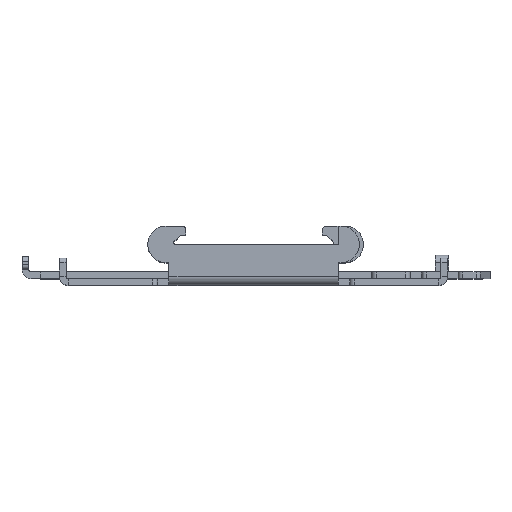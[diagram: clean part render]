
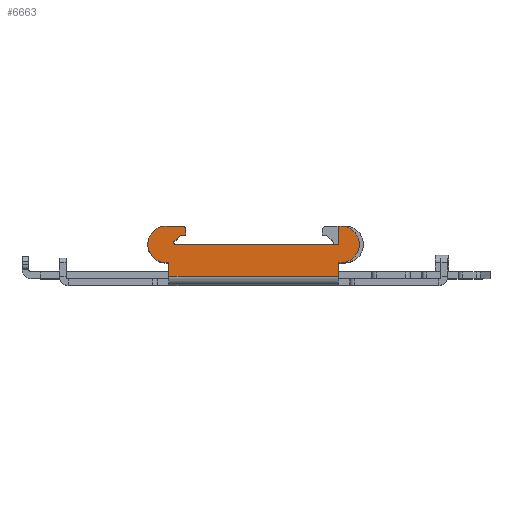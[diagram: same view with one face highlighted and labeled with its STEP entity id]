
A CAD part, top view. The second image highlights one B-rep face of the part: STEP entity #6663.
In plain terms, the highlighted planar face has unit normal (0, 0, 1) as drawn and (0, 0, -1) by its records, which use the part's own axes.
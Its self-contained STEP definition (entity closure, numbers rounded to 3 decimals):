
#49 = CIRCLE ( 'NONE', #8783, 4. ) ;
#116 = EDGE_CURVE ( 'NONE', #12411, #14435, #4830, .T. ) ;
#466 = CIRCLE ( 'NONE', #14184, 4. ) ;
#479 = EDGE_CURVE ( 'NONE', #11978, #7260, #10532, .T. ) ;
#1146 = LINE ( 'NONE', #5907, #9116 ) ;
#1449 = CARTESIAN_POINT ( 'NONE',  ( 19.15, 3.5, -35. ) ) ;
#1526 = DIRECTION ( 'NONE',  ( 1., 0., 0. ) ) ;
#1535 = LINE ( 'NONE', #12456, #12934 ) ;
#1744 = ORIENTED_EDGE ( 'NONE', *, *, #9687, .T. ) ;
#1833 = CARTESIAN_POINT ( 'NONE',  ( 14.85, 10.75, -35. ) ) ;
#1840 = CARTESIAN_POINT ( 'NONE',  ( 14.85, 11.5, -35. ) ) ;
#2130 = CARTESIAN_POINT ( 'NONE',  ( 15.6, 11.5, -35. ) ) ;
#2358 = VECTOR ( 'NONE', #4983, 1000. ) ;
#2373 = VERTEX_POINT ( 'NONE', #3204 ) ;
#2433 = FACE_OUTER_BOUND ( 'NONE', #11854, .T. ) ;
#2580 = DIRECTION ( 'NONE',  ( 0., -1., 0. ) ) ;
#2666 = VERTEX_POINT ( 'NONE', #9034 ) ;
#2669 = ORIENTED_EDGE ( 'NONE', *, *, #7728, .T. ) ;
#2685 = EDGE_CURVE ( 'NONE', #7352, #2666, #466, .T. ) ;
#2701 = CARTESIAN_POINT ( 'NONE',  ( 23.15, 11.5, -35. ) ) ;
#2710 = LINE ( 'NONE', #7490, #4454 ) ;
#2794 = CARTESIAN_POINT ( 'NONE',  ( 15.6, 10.75, -35. ) ) ;
#3045 = ORIENTED_EDGE ( 'NONE', *, *, #3834, .T. ) ;
#3165 = DIRECTION ( 'NONE',  ( 0., 0., -1. ) ) ;
#3204 = CARTESIAN_POINT ( 'NONE',  ( 18.5, 0.5, -35. ) ) ;
#3332 = EDGE_CURVE ( 'NONE', #14435, #11978, #4593, .T. ) ;
#3607 = LINE ( 'NONE', #5794, #4767 ) ;
#3834 = EDGE_CURVE ( 'NONE', #4882, #5629, #11375, .T. ) ;
#4163 = CARTESIAN_POINT ( 'NONE',  ( 15.974, 9.5, -35. ) ) ;
#4218 = ORIENTED_EDGE ( 'NONE', *, *, #13821, .T. ) ;
#4385 = CARTESIAN_POINT ( 'NONE',  ( -18.65, 11.5, -35. ) ) ;
#4454 = VECTOR ( 'NONE', #9896, 1000. ) ;
#4468 = VERTEX_POINT ( 'NONE', #1449 ) ;
#4593 = LINE ( 'NONE', #9363, #14371 ) ;
#4759 = CARTESIAN_POINT ( 'NONE',  ( 18.562, 6.912, -35. ) ) ;
#4767 = VECTOR ( 'NONE', #10564, 1000. ) ;
#4807 = CARTESIAN_POINT ( 'NONE',  ( 18.5, 3.5, -35. ) ) ;
#4830 = LINE ( 'NONE', #4759, #2358 ) ;
#4882 = VERTEX_POINT ( 'NONE', #6942 ) ;
#4983 = DIRECTION ( 'NONE',  ( -0.707, 0.707, 0. ) ) ;
#5071 = CARTESIAN_POINT ( 'NONE',  ( 23.15, 11.5, -35. ) ) ;
#5200 = CARTESIAN_POINT ( 'NONE',  ( 14.85, 9.5, -35. ) ) ;
#5273 = DIRECTION ( 'NONE',  ( 0., -1., 0. ) ) ;
#5287 = CARTESIAN_POINT ( 'NONE',  ( -18.65, 11.5, -35. ) ) ;
#5358 = VERTEX_POINT ( 'NONE', #2130 ) ;
#5366 = DIRECTION ( 'NONE',  ( 0., -1., 0. ) ) ;
#5425 = CARTESIAN_POINT ( 'NONE',  ( -18.5, 11.5, -35. ) ) ;
#5504 = CIRCLE ( 'NONE', #8540, 0.75 ) ;
#5616 = ORIENTED_EDGE ( 'NONE', *, *, #116, .T. ) ;
#5625 = EDGE_CURVE ( 'NONE', #11159, #8534, #8648, .T. ) ;
#5629 = VERTEX_POINT ( 'NONE', #7320 ) ;
#5745 = CARTESIAN_POINT ( 'NONE',  ( 19.15, 11.5, -35. ) ) ;
#5793 = VECTOR ( 'NONE', #6291, 1000. ) ;
#5794 = CARTESIAN_POINT ( 'NONE',  ( 23.15, 0.5, -35. ) ) ;
#5907 = CARTESIAN_POINT ( 'NONE',  ( 23.15, 3.5, -35. ) ) ;
#6161 = DIRECTION ( 'NONE',  ( 0., -1., 0. ) ) ;
#6291 = DIRECTION ( 'NONE',  ( 1., 0., 0. ) ) ;
#6306 = CARTESIAN_POINT ( 'NONE',  ( -19.15, 3.5, -35. ) ) ;
#6663 = ADVANCED_FACE ( 'NONE', ( #2433 ), #7201, .F. ) ;
#6942 = CARTESIAN_POINT ( 'NONE',  ( -18.5, 0.5, -35. ) ) ;
#7014 = VECTOR ( 'NONE', #13949, 1000. ) ;
#7201 = PLANE ( 'NONE',  #12509 ) ;
#7260 = VERTEX_POINT ( 'NONE', #1833 ) ;
#7269 = CARTESIAN_POINT ( 'NONE',  ( 17.25, 7.8, -35. ) ) ;
#7320 = CARTESIAN_POINT ( 'NONE',  ( -18.5, 3.5, -35. ) ) ;
#7352 = VERTEX_POINT ( 'NONE', #6306 ) ;
#7490 = CARTESIAN_POINT ( 'NONE',  ( 23.15, 3.5, -35. ) ) ;
#7539 = VERTEX_POINT ( 'NONE', #5745 ) ;
#7728 = EDGE_CURVE ( 'NONE', #5629, #7352, #1146, .T. ) ;
#7868 = ORIENTED_EDGE ( 'NONE', *, *, #11317, .T. ) ;
#7934 = DIRECTION ( 'NONE',  ( 0., -1., 0. ) ) ;
#7949 = DIRECTION ( 'NONE',  ( -1., 0., 0. ) ) ;
#8050 = ORIENTED_EDGE ( 'NONE', *, *, #5625, .T. ) ;
#8180 = CARTESIAN_POINT ( 'NONE',  ( -18.65, 7.5, -35. ) ) ;
#8191 = ORIENTED_EDGE ( 'NONE', *, *, #10213, .F. ) ;
#8531 = VERTEX_POINT ( 'NONE', #4385 ) ;
#8534 = VERTEX_POINT ( 'NONE', #12504 ) ;
#8540 = AXIS2_PLACEMENT_3D ( 'NONE', #2794, #8740, #5273 ) ;
#8648 = LINE ( 'NONE', #10828, #5793 ) ;
#8740 = DIRECTION ( 'NONE',  ( 0., 0., -1. ) ) ;
#8783 = AXIS2_PLACEMENT_3D ( 'NONE', #12609, #10119, #9963 ) ;
#9034 = CARTESIAN_POINT ( 'NONE',  ( -19.15, 11.5, -35. ) ) ;
#9083 = ORIENTED_EDGE ( 'NONE', *, *, #3332, .T. ) ;
#9116 = VECTOR ( 'NONE', #10674, 1000. ) ;
#9192 = CARTESIAN_POINT ( 'NONE',  ( 18.5, 11.5, -35. ) ) ;
#9263 = AXIS2_PLACEMENT_3D ( 'NONE', #7269, #14668, #6161 ) ;
#9363 = CARTESIAN_POINT ( 'NONE',  ( 23.15, 9.5, -35. ) ) ;
#9687 = EDGE_CURVE ( 'NONE', #14063, #2373, #10444, .T. ) ;
#9766 = CIRCLE ( 'NONE', #9263, 0.3 ) ;
#9772 = DIRECTION ( 'NONE',  ( 0., 0., 1. ) ) ;
#9896 = DIRECTION ( 'NONE',  ( -1., 0., 0. ) ) ;
#9963 = DIRECTION ( 'NONE',  ( 0., -1., 0. ) ) ;
#10119 = DIRECTION ( 'NONE',  ( 0., 0., -1. ) ) ;
#10207 = DIRECTION ( 'NONE',  ( 0., 1., 0. ) ) ;
#10213 = EDGE_CURVE ( 'NONE', #4882, #2373, #3607, .T. ) ;
#10444 = LINE ( 'NONE', #9192, #7014 ) ;
#10532 = LINE ( 'NONE', #1840, #13330 ) ;
#10564 = DIRECTION ( 'NONE',  ( 1., 0., 0. ) ) ;
#10674 = DIRECTION ( 'NONE',  ( -1., 0., 0. ) ) ;
#10794 = ORIENTED_EDGE ( 'NONE', *, *, #11843, .T. ) ;
#10828 = CARTESIAN_POINT ( 'NONE',  ( 23.15, 7.5, -35. ) ) ;
#10984 = EDGE_CURVE ( 'NONE', #7260, #5358, #5504, .T. ) ;
#11159 = VERTEX_POINT ( 'NONE', #8180 ) ;
#11170 = ORIENTED_EDGE ( 'NONE', *, *, #13736, .T. ) ;
#11317 = EDGE_CURVE ( 'NONE', #2666, #8531, #13101, .T. ) ;
#11375 = LINE ( 'NONE', #5425, #14338 ) ;
#11467 = EDGE_CURVE ( 'NONE', #7539, #4468, #49, .T. ) ;
#11583 = ORIENTED_EDGE ( 'NONE', *, *, #15433, .T. ) ;
#11843 = EDGE_CURVE ( 'NONE', #8534, #12411, #9766, .T. ) ;
#11854 = EDGE_LOOP ( 'NONE', ( #14386, #12580, #11170, #14980, #4218, #1744, #8191, #3045, #2669, #15023, #7868, #11583, #8050, #10794, #5616, #9083 ) ) ;
#11978 = VERTEX_POINT ( 'NONE', #5200 ) ;
#12149 = CARTESIAN_POINT ( 'NONE',  ( 17.462, 8.012, -35. ) ) ;
#12393 = VECTOR ( 'NONE', #5366, 1000. ) ;
#12411 = VERTEX_POINT ( 'NONE', #12149 ) ;
#12456 = CARTESIAN_POINT ( 'NONE',  ( 23.15, 11.5, -35. ) ) ;
#12504 = CARTESIAN_POINT ( 'NONE',  ( 17.25, 7.5, -35. ) ) ;
#12509 = AXIS2_PLACEMENT_3D ( 'NONE', #5071, #9772, #2580 ) ;
#12580 = ORIENTED_EDGE ( 'NONE', *, *, #10984, .T. ) ;
#12609 = CARTESIAN_POINT ( 'NONE',  ( 19.15, 7.5, -35. ) ) ;
#12934 = VECTOR ( 'NONE', #14801, 1000. ) ;
#13101 = LINE ( 'NONE', #2701, #14526 ) ;
#13330 = VECTOR ( 'NONE', #15287, 1000. ) ;
#13736 = EDGE_CURVE ( 'NONE', #5358, #7539, #1535, .T. ) ;
#13821 = EDGE_CURVE ( 'NONE', #4468, #14063, #2710, .T. ) ;
#13866 = CARTESIAN_POINT ( 'NONE',  ( -19.15, 7.5, -35. ) ) ;
#13884 = LINE ( 'NONE', #5287, #12393 ) ;
#13949 = DIRECTION ( 'NONE',  ( 0., -1., 0. ) ) ;
#14063 = VERTEX_POINT ( 'NONE', #4807 ) ;
#14184 = AXIS2_PLACEMENT_3D ( 'NONE', #13866, #3165, #7934 ) ;
#14338 = VECTOR ( 'NONE', #10207, 1000. ) ;
#14371 = VECTOR ( 'NONE', #7949, 1000. ) ;
#14386 = ORIENTED_EDGE ( 'NONE', *, *, #479, .T. ) ;
#14435 = VERTEX_POINT ( 'NONE', #4163 ) ;
#14526 = VECTOR ( 'NONE', #1526, 1000. ) ;
#14668 = DIRECTION ( 'NONE',  ( 0., 0., 1. ) ) ;
#14801 = DIRECTION ( 'NONE',  ( 1., 0., 0. ) ) ;
#14980 = ORIENTED_EDGE ( 'NONE', *, *, #11467, .T. ) ;
#15023 = ORIENTED_EDGE ( 'NONE', *, *, #2685, .T. ) ;
#15287 = DIRECTION ( 'NONE',  ( 0., 1., 0. ) ) ;
#15433 = EDGE_CURVE ( 'NONE', #8531, #11159, #13884, .T. ) ;
